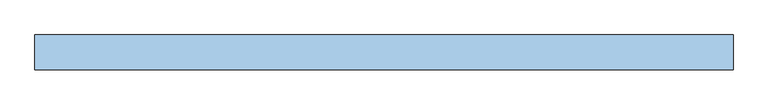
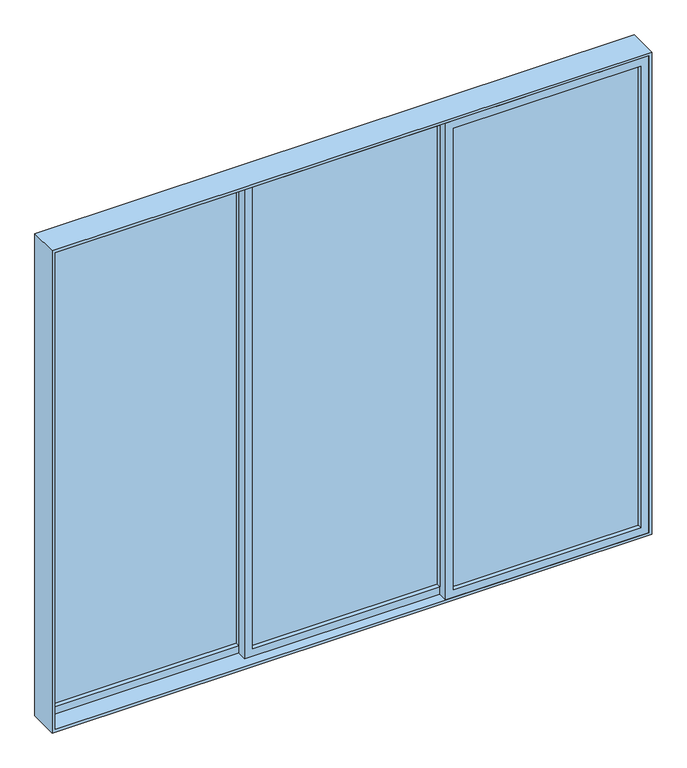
"""IFC4 building model written with IfcOpenShell, lengths in millimetres: window geometry, VENT_ALUM_CORR_3HOJAS_CORRE 2 : VD-16 / CORRE SALA 3.00 X 2.55."""

import ifcopenshell
import ifcopenshell.guid

model = None  # the IFC model being written
_history = None  # IfcOwnerHistory: only IFC2X3 demands one
_inside = {}  # id of a spatial element -> (the spatial element, [elements in it])
_under = {}  # id of a project, library or spatial element -> (it, [spatial elements below it])
_declared = {}  # id of a project -> (the project, [libraries it declares])
_typed = {}  # id of a type object -> (the type object, [elements of that type])
_made_of = {}  # id of a material, layer set ... -> (it, [elements and type objects made of it])


def new_model(schema):
    """Start an empty IFC model of exactly this schema.

    Asked for "IFC4X3", IfcOpenShell would pick the latest addendum, in which some entities
    have other attributes; the version numbers below select the first issue.
    IFC2X3 requires an IfcOwnerHistory on every rooted entity: one is made here for all.
    """
    global model, _history
    if schema == "IFC4X3":
        model = ifcopenshell.file(schema_version=(4, 3, 0, 0))
    else:
        model = ifcopenshell.file(schema=schema)
    _inside.clear()
    _under.clear()
    _declared.clear()
    _typed.clear()
    _made_of.clear()
    _history = None
    if model.schema == "IFC2X3":
        org = make("IfcOrganization", Name="unknown")
        user = make(
            "IfcPersonAndOrganization",
            ThePerson=make("IfcPerson", FamilyName="unknown"),
            TheOrganization=org,
        )
        app = make(
            "IfcApplication",
            ApplicationDeveloper=org,
            Version="unknown",
            ApplicationFullName="unknown",
            ApplicationIdentifier="unknown",
        )
        _history = make(
            "IfcOwnerHistory",
            OwningUser=user,
            OwningApplication=app,
            ChangeAction="ADDED",
            CreationDate=0,
        )
    return model


def make(cls, **values):
    """One entity of the class cls with the attributes given. An attribute that is None is left unset."""
    return model.create_entity(
        cls, **{name: value for name, value in values.items() if value is not None}
    )


def rooted(cls, **values):
    """An entity with a GlobalId (a new one), such as an element, a storey or a relation."""
    return make(cls, GlobalId=ifcopenshell.guid.new(), OwnerHistory=_history, **values)


def si_unit(unit_type, name, prefix=None):
    """IfcSIUnit, for example si_unit("LENGTHUNIT", "METRE", prefix="MILLI")."""
    return make("IfcSIUnit", UnitType=unit_type, Prefix=prefix, Name=name)


def assignment(units):
    """IfcUnitAssignment: the units of a project."""
    return None if units is None else make("IfcUnitAssignment", Units=units)


def point(xyz):
    """IfcCartesianPoint."""
    return None if xyz is None else make("IfcCartesianPoint", Coordinates=xyz)


def direction(xyz):
    """IfcDirection."""
    return None if xyz is None else make("IfcDirection", DirectionRatios=xyz)


def frame(location, z_axis=None, x_axis=None):
    """IfcAxis2Placement3D, a coordinate frame: its origin and axes. An axis left out is left unset."""
    return make(
        "IfcAxis2Placement3D",
        Location=point(location),
        Axis=direction(z_axis),
        RefDirection=direction(x_axis),
    )


def origin():
    """The frame at (0, 0, 0) with its axes left unset."""
    return frame((0.0, 0.0, 0.0))


def place(relative_to, where):
    """IfcLocalPlacement: puts the frame where relative to a parent placement (None: the world)."""
    return make(
        "IfcLocalPlacement", PlacementRelTo=relative_to, RelativePlacement=where
    )


def context(
    kind, dimensions, precision=None, world=None, true_north=None, identifier=None
):
    """IfcGeometricRepresentationContext, for example the 3D "Model" context."""
    return make(
        "IfcGeometricRepresentationContext",
        ContextIdentifier=identifier,
        ContextType=kind,
        CoordinateSpaceDimension=dimensions,
        Precision=precision,
        WorldCoordinateSystem=world,
        TrueNorth=true_north,
    )


def project(units=None, contexts=None):
    """IfcProject with its units and contexts."""
    return rooted(
        "IfcProject",
        Name="project",
        RepresentationContexts=contexts,
        UnitsInContext=assignment(units),
    )


def spatial(cls, under=None, at=None, **own):
    """A site, building, storey or space (cls), placed at a placement, below another one or the project."""
    s = rooted(cls, ObjectPlacement=at, **own)
    if under is not None:
        _under.setdefault(under.id(), (under, []))[1].append(s)
    return s


def polyline(points):
    """IfcPolyline through the points."""
    return make("IfcPolyline", Points=[point(p) for p in points])


def outline(outer, holes=None, kind="AREA"):
    """IfcArbitraryClosedProfileDef: a profile drawn as a closed curve; with holes, ...WithVoids."""
    if holes is None:
        return make("IfcArbitraryClosedProfileDef", ProfileType=kind, OuterCurve=outer)
    return make(
        "IfcArbitraryProfileDefWithVoids",
        ProfileType=kind,
        OuterCurve=outer,
        InnerCurves=holes,
    )


def extrude(swept, where, along, depth):
    """IfcExtrudedAreaSolid: the profile swept, set in the frame where, extruded along a direction by depth."""
    return make(
        "IfcExtrudedAreaSolid",
        SweptArea=swept,
        Position=where,
        ExtrudedDirection=direction(along),
        Depth=depth,
    )


def shape(context_of_items, identifier, shape_type, items):
    """IfcShapeRepresentation: the items that make up one representation, for example the "Body"."""
    return make(
        "IfcShapeRepresentation",
        ContextOfItems=context_of_items,
        RepresentationIdentifier=identifier,
        RepresentationType=shape_type,
        Items=items,
    )


def source(mapping_origin, context_of_items, identifier, shape_type, items):
    """IfcRepresentationMap: a shape defined once, which mapped items show again and again."""
    return make(
        "IfcRepresentationMap",
        MappingOrigin=mapping_origin,
        MappedRepresentation=shape(context_of_items, identifier, shape_type, items),
    )


def transform(
    local_origin,
    x_axis=None,
    y_axis=None,
    z_axis=None,
    scale=None,
    scale2=None,
    scale3=None,
    uniform=True,
):
    """IfcCartesianTransformationOperator3D, or its non-uniform kind. x_axis, y_axis, z_axis: its Axis1, 2, 3."""
    if uniform:
        return make(
            "IfcCartesianTransformationOperator3D",
            Axis1=direction(x_axis),
            Axis2=direction(y_axis),
            LocalOrigin=point(local_origin),
            Scale=scale,
            Axis3=direction(z_axis),
        )
    return make(
        "IfcCartesianTransformationOperator3DnonUniform",
        Axis1=direction(x_axis),
        Axis2=direction(y_axis),
        LocalOrigin=point(local_origin),
        Scale=scale,
        Axis3=direction(z_axis),
        Scale2=scale2,
        Scale3=scale3,
    )


def mapped(mapping_source, mapping_target):
    """IfcMappedItem: shows the shape of a source again, moved by a transform."""
    return make(
        "IfcMappedItem", MappingSource=mapping_source, MappingTarget=mapping_target
    )


def made_of(thing, what):
    """Note that an element or type object is made of a material, layer set ...; save() writes the relation."""
    if what is not None:
        _made_of.setdefault(what.id(), (what, []))[1].append(thing)
    return thing


def element(
    cls,
    number,
    at=None,
    inside=None,
    cuts=None,
    type_object=None,
    material=None,
    context=None,
    identifier="Body",
    shape_type=None,
    held_by="IfcProductDefinitionShape",
    body=None,
    shapes=None,
    **own,
):
    """One element of the class cls, such as IfcWall. Its Tag is "e" and its number.

    at: its placement. inside: the storey or other place that contains it. cuts: it is an
    opening in that element (IfcRelVoidsElement). A single representation is given by context,
    identifier, shape_type and body (its items); several are given by shapes. held_by: the class
    of the entity that holds the representations. save() writes the other relations.
    """
    e = rooted(cls, Tag="e%d" % number, ObjectPlacement=at, **own)
    if body is not None:
        shapes = [shape(context, identifier, shape_type, body)]
    if shapes is not None:
        e.Representation = make(held_by, Representations=shapes)
    if inside is not None:
        _inside.setdefault(inside.id(), (inside, []))[1].append(e)
    if cuts is not None:
        rooted(
            "IfcRelVoidsElement", RelatingBuildingElement=cuts, RelatedOpeningElement=e
        )
    if type_object is not None:
        _typed.setdefault(type_object.id(), (type_object, []))[1].append(e)
    return made_of(e, material)


def aggregate(whole, parts):
    """IfcRelAggregates: a whole, such as a stair, and the parts it consists of."""
    return rooted("IfcRelAggregates", RelatingObject=whole, RelatedObjects=parts)


def save(model, path):
    """Write the relations noted so far, then the file.

    IfcRelAggregates (storeys below a building ...), IfcRelContainedInSpatialStructure (elements
    in a storey), IfcRelDefinesByType, IfcRelAssociatesMaterial and IfcRelDeclares: one each for
    every whole, place, type object, material and project.
    """
    for whole, parts in _under.values():
        aggregate(whole, parts)
    for where, things in _inside.values():
        rooted(
            "IfcRelContainedInSpatialStructure",
            RelatedElements=things,
            RelatingStructure=where,
        )
    for kind, things in _typed.values():
        rooted("IfcRelDefinesByType", RelatedObjects=things, RelatingType=kind)
    for what, things in _made_of.values():
        rooted("IfcRelAssociatesMaterial", RelatedObjects=things, RelatingMaterial=what)
    for by, libraries in _declared.values():
        rooted("IfcRelDeclares", RelatingContext=by, RelatedDefinitions=libraries)
    model.write(path)


def window_87ed841d(model_context):
    return source(origin(), model_context, "Body", "SweptSolid", [
        extrude(outline(polyline([(-1445.0, 47.0), (-1445.0, 53.0), (-508.3333333, 53.0), (-508.3333333, 47.0), (-1445.0, 47.0)])), frame((0.0, 0.0, 855.0), z_axis=(0.0, 0.0, 1.0), x_axis=(1.0, 0.0, 0.0)), (0.0, 0.0, 1.0), 2440.0),
        extrude(outline(polyline([(3335.0, -1485.0), (815.0, -1485.0), (815.0, -468.3333333), (3335.0, -468.3333333), (3335.0, -1485.0)]), holes=[polyline([(855.0, -1445.0), (3295.0, -1445.0), (3295.0, -508.3333333), (855.0, -508.3333333), (855.0, -1445.0)])]), frame((0.0, 25.0, 0.0), z_axis=(0.0, 1.0, 0.0), x_axis=(0.0, 0.0, 1.0)), (0.0, 0.0, 1.0), 50.0),
        extrude(outline(polyline([(-468.3333333, -3.0), (-468.3333333, 3.0), (468.3333333, 3.0), (468.3333333, -3.0), (-468.3333333, -3.0)])), frame((0.0, 0.0, 855.0), z_axis=(0.0, 0.0, 1.0), x_axis=(1.0, 0.0, 0.0)), (0.0, 0.0, 1.0), 2440.0),
        extrude(outline(polyline([(3335.0, -508.3333333), (815.0, -508.3333333), (815.0, 508.3333333), (3335.0, 508.3333333), (3335.0, -508.3333333)]), holes=[polyline([(855.0, -468.3333333), (3295.0, -468.3333333), (3295.0, 468.3333333), (855.0, 468.3333333), (855.0, -468.3333333)])]), frame((0.0, -25.0, 0.0), z_axis=(0.0, 1.0, 0.0), x_axis=(0.0, 0.0, 1.0)), (0.0, 0.0, 1.0), 50.0),
        extrude(outline(polyline([(508.3333333, -53.0), (508.3333333, -47.0), (1445.0, -47.0), (1445.0, -53.0), (508.3333333, -53.0)])), frame((0.0, 0.0, 855.0), z_axis=(0.0, 0.0, 1.0), x_axis=(1.0, 0.0, 0.0)), (0.0, 0.0, 1.0), 2440.0),
        extrude(outline(polyline([(3335.0, 468.3333333), (815.0, 468.3333333), (815.0, 1485.0), (3335.0, 1485.0), (3335.0, 468.3333333)]), holes=[polyline([(855.0, 508.3333333), (3295.0, 508.3333333), (3295.0, 1445.0), (855.0, 1445.0), (855.0, 508.3333333)])]), frame((0.0, -75.0, 0.0), z_axis=(0.0, 1.0, 0.0), x_axis=(0.0, 0.0, 1.0)), (0.0, 0.0, 1.0), 50.0),
        extrude(outline(polyline([(3350.0, -1500.0), (800.0, -1500.0), (800.0, 1500.0), (3350.0, 1500.0), (3350.0, -1500.0)]), holes=[polyline([(815.0, -1485.0), (3335.0, -1485.0), (3335.0, 1485.0), (815.0, 1485.0), (815.0, -1485.0)])]), frame((0.0, -75.0, 0.0), z_axis=(0.0, 1.0, 0.0), x_axis=(0.0, 0.0, 1.0)), (0.0, 0.0, 1.0), 150.0),
    ])


if __name__ == "__main__":
    model = new_model("IFC4")
    model_context = context("Model", 3, world=origin())
    ifc_project = project(units=[si_unit("LENGTHUNIT", "METRE", prefix="MILLI")], contexts=[model_context])
    site = spatial("IfcSite", under=ifc_project)
    building = spatial("IfcBuilding", under=site)
    placement = place(None, origin())
    window_shape = window_87ed841d(model_context)
    element("IfcWindow", 1, ObjectType="VENT_ALUM_CORR_3HOJAS_CORRE 2 : VD-16 / CORRE SALA 3.00 X 2.55", at=placement, inside=building, context=model_context, shape_type="MappedRepresentation", body=[
        mapped(window_shape, transform((0.0, 0.0, 0.0), x_axis=(1.0, 0.0, 0.0), y_axis=(0.0, 1.0, 0.0), z_axis=(0.0, 0.0, 1.0))),
    ])
    save(model, "model.ifc")
